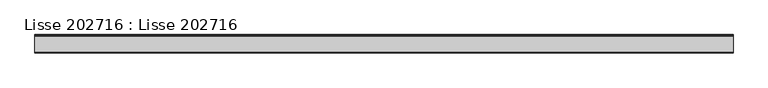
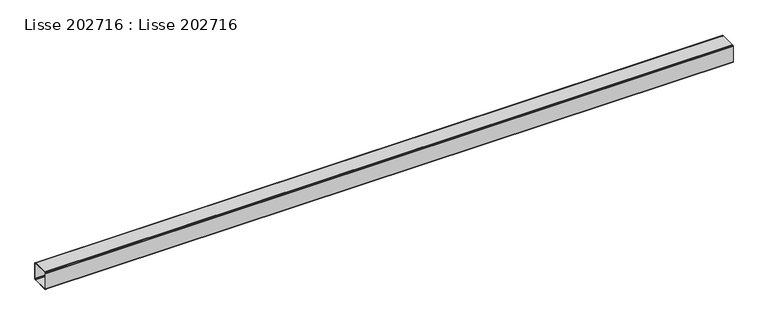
"""IFC4 building model written with IfcOpenShell, lengths in millimetres: beam geometry, Lisse 202716 : Lisse 202716."""

import ifcopenshell
import ifcopenshell.guid

model = None  # the IFC model being written
_history = None  # IfcOwnerHistory: only IFC2X3 demands one
_inside = {}  # id of a spatial element -> (the spatial element, [elements in it])
_under = {}  # id of a project, library or spatial element -> (it, [spatial elements below it])
_declared = {}  # id of a project -> (the project, [libraries it declares])
_typed = {}  # id of a type object -> (the type object, [elements of that type])
_made_of = {}  # id of a material, layer set ... -> (it, [elements and type objects made of it])


def new_model(schema):
    """Start an empty IFC model of exactly this schema.

    Asked for "IFC4X3", IfcOpenShell would pick the latest addendum, in which some entities
    have other attributes; the version numbers below select the first issue.
    IFC2X3 requires an IfcOwnerHistory on every rooted entity: one is made here for all.
    """
    global model, _history
    if schema == "IFC4X3":
        model = ifcopenshell.file(schema_version=(4, 3, 0, 0))
    else:
        model = ifcopenshell.file(schema=schema)
    _inside.clear()
    _under.clear()
    _declared.clear()
    _typed.clear()
    _made_of.clear()
    _history = None
    if model.schema == "IFC2X3":
        org = make("IfcOrganization", Name="unknown")
        user = make(
            "IfcPersonAndOrganization",
            ThePerson=make("IfcPerson", FamilyName="unknown"),
            TheOrganization=org,
        )
        app = make(
            "IfcApplication",
            ApplicationDeveloper=org,
            Version="unknown",
            ApplicationFullName="unknown",
            ApplicationIdentifier="unknown",
        )
        _history = make(
            "IfcOwnerHistory",
            OwningUser=user,
            OwningApplication=app,
            ChangeAction="ADDED",
            CreationDate=0,
        )
    return model


def make(cls, **values):
    """One entity of the class cls with the attributes given. An attribute that is None is left unset."""
    return model.create_entity(
        cls, **{name: value for name, value in values.items() if value is not None}
    )


def rooted(cls, **values):
    """An entity with a GlobalId (a new one), such as an element, a storey or a relation."""
    return make(cls, GlobalId=ifcopenshell.guid.new(), OwnerHistory=_history, **values)


def si_unit(unit_type, name, prefix=None):
    """IfcSIUnit, for example si_unit("LENGTHUNIT", "METRE", prefix="MILLI")."""
    return make("IfcSIUnit", UnitType=unit_type, Prefix=prefix, Name=name)


def assignment(units):
    """IfcUnitAssignment: the units of a project."""
    return None if units is None else make("IfcUnitAssignment", Units=units)


def point(xyz):
    """IfcCartesianPoint."""
    return None if xyz is None else make("IfcCartesianPoint", Coordinates=xyz)


def direction(xyz):
    """IfcDirection."""
    return None if xyz is None else make("IfcDirection", DirectionRatios=xyz)


def frame(location, z_axis=None, x_axis=None):
    """IfcAxis2Placement3D, a coordinate frame: its origin and axes. An axis left out is left unset."""
    return make(
        "IfcAxis2Placement3D",
        Location=point(location),
        Axis=direction(z_axis),
        RefDirection=direction(x_axis),
    )


def origin():
    """The frame at (0, 0, 0) with its axes left unset."""
    return frame((0.0, 0.0, 0.0))


def place(relative_to, where):
    """IfcLocalPlacement: puts the frame where relative to a parent placement (None: the world)."""
    return make(
        "IfcLocalPlacement", PlacementRelTo=relative_to, RelativePlacement=where
    )


def context(
    kind, dimensions, precision=None, world=None, true_north=None, identifier=None
):
    """IfcGeometricRepresentationContext, for example the 3D "Model" context."""
    return make(
        "IfcGeometricRepresentationContext",
        ContextIdentifier=identifier,
        ContextType=kind,
        CoordinateSpaceDimension=dimensions,
        Precision=precision,
        WorldCoordinateSystem=world,
        TrueNorth=true_north,
    )


def project(units=None, contexts=None):
    """IfcProject with its units and contexts."""
    return rooted(
        "IfcProject",
        Name="project",
        RepresentationContexts=contexts,
        UnitsInContext=assignment(units),
    )


def spatial(cls, under=None, at=None, **own):
    """A site, building, storey or space (cls), placed at a placement, below another one or the project."""
    s = rooted(cls, ObjectPlacement=at, **own)
    if under is not None:
        _under.setdefault(under.id(), (under, []))[1].append(s)
    return s


def polyline(points):
    """IfcPolyline through the points."""
    return make("IfcPolyline", Points=[point(p) for p in points])


def outline(outer, holes=None, kind="AREA"):
    """IfcArbitraryClosedProfileDef: a profile drawn as a closed curve; with holes, ...WithVoids."""
    if holes is None:
        return make("IfcArbitraryClosedProfileDef", ProfileType=kind, OuterCurve=outer)
    return make(
        "IfcArbitraryProfileDefWithVoids",
        ProfileType=kind,
        OuterCurve=outer,
        InnerCurves=holes,
    )


def extrude(swept, where, along, depth):
    """IfcExtrudedAreaSolid: the profile swept, set in the frame where, extruded along a direction by depth."""
    return make(
        "IfcExtrudedAreaSolid",
        SweptArea=swept,
        Position=where,
        ExtrudedDirection=direction(along),
        Depth=depth,
    )


def shape(context_of_items, identifier, shape_type, items):
    """IfcShapeRepresentation: the items that make up one representation, for example the "Body"."""
    return make(
        "IfcShapeRepresentation",
        ContextOfItems=context_of_items,
        RepresentationIdentifier=identifier,
        RepresentationType=shape_type,
        Items=items,
    )


def source(mapping_origin, context_of_items, identifier, shape_type, items):
    """IfcRepresentationMap: a shape defined once, which mapped items show again and again."""
    return make(
        "IfcRepresentationMap",
        MappingOrigin=mapping_origin,
        MappedRepresentation=shape(context_of_items, identifier, shape_type, items),
    )


def transform(
    local_origin,
    x_axis=None,
    y_axis=None,
    z_axis=None,
    scale=None,
    scale2=None,
    scale3=None,
    uniform=True,
):
    """IfcCartesianTransformationOperator3D, or its non-uniform kind. x_axis, y_axis, z_axis: its Axis1, 2, 3."""
    if uniform:
        return make(
            "IfcCartesianTransformationOperator3D",
            Axis1=direction(x_axis),
            Axis2=direction(y_axis),
            LocalOrigin=point(local_origin),
            Scale=scale,
            Axis3=direction(z_axis),
        )
    return make(
        "IfcCartesianTransformationOperator3DnonUniform",
        Axis1=direction(x_axis),
        Axis2=direction(y_axis),
        LocalOrigin=point(local_origin),
        Scale=scale,
        Axis3=direction(z_axis),
        Scale2=scale2,
        Scale3=scale3,
    )


def mapped(mapping_source, mapping_target):
    """IfcMappedItem: shows the shape of a source again, moved by a transform."""
    return make(
        "IfcMappedItem", MappingSource=mapping_source, MappingTarget=mapping_target
    )


def made_of(thing, what):
    """Note that an element or type object is made of a material, layer set ...; save() writes the relation."""
    if what is not None:
        _made_of.setdefault(what.id(), (what, []))[1].append(thing)
    return thing


def element(
    cls,
    number,
    at=None,
    inside=None,
    cuts=None,
    type_object=None,
    material=None,
    context=None,
    identifier="Body",
    shape_type=None,
    held_by="IfcProductDefinitionShape",
    body=None,
    shapes=None,
    **own,
):
    """One element of the class cls, such as IfcWall. Its Tag is "e" and its number.

    at: its placement. inside: the storey or other place that contains it. cuts: it is an
    opening in that element (IfcRelVoidsElement). A single representation is given by context,
    identifier, shape_type and body (its items); several are given by shapes. held_by: the class
    of the entity that holds the representations. save() writes the other relations.
    """
    e = rooted(cls, Tag="e%d" % number, ObjectPlacement=at, **own)
    if body is not None:
        shapes = [shape(context, identifier, shape_type, body)]
    if shapes is not None:
        e.Representation = make(held_by, Representations=shapes)
    if inside is not None:
        _inside.setdefault(inside.id(), (inside, []))[1].append(e)
    if cuts is not None:
        rooted(
            "IfcRelVoidsElement", RelatingBuildingElement=cuts, RelatedOpeningElement=e
        )
    if type_object is not None:
        _typed.setdefault(type_object.id(), (type_object, []))[1].append(e)
    return made_of(e, material)


def aggregate(whole, parts):
    """IfcRelAggregates: a whole, such as a stair, and the parts it consists of."""
    return rooted("IfcRelAggregates", RelatingObject=whole, RelatedObjects=parts)


def save(model, path):
    """Write the relations noted so far, then the file.

    IfcRelAggregates (storeys below a building ...), IfcRelContainedInSpatialStructure (elements
    in a storey), IfcRelDefinesByType, IfcRelAssociatesMaterial and IfcRelDeclares: one each for
    every whole, place, type object, material and project.
    """
    for whole, parts in _under.values():
        aggregate(whole, parts)
    for where, things in _inside.values():
        rooted(
            "IfcRelContainedInSpatialStructure",
            RelatedElements=things,
            RelatingStructure=where,
        )
    for kind, things in _typed.values():
        rooted("IfcRelDefinesByType", RelatedObjects=things, RelatingType=kind)
    for what, things in _made_of.values():
        rooted("IfcRelAssociatesMaterial", RelatedObjects=things, RelatingMaterial=what)
    for by, libraries in _declared.values():
        rooted("IfcRelDeclares", RelatingContext=by, RelatedDefinitions=libraries)
    model.write(path)


def lisse_202716_lisse_202716_2bcbaa4b(model_context):
    return source(origin(), model_context, "Body", "SweptSolid", [
        extrude(outline(polyline([(95.0, 3194.0), (95.0, 3106.0), (94.1961524, 3103.0), (92.0, 3100.8038476), (89.0, 3100.0), (1.0, 3100.0), (-2.0, 3100.8038476), (-4.1961524, 3103.0), (-5.0, 3106.0), (-5.0, 3194.0), (-4.1961524, 3197.0), (-2.0, 3199.1961524), (1.0, 3200.0), (89.0, 3200.0), (92.0, 3199.1961524), (94.1961524, 3197.0), (95.0, 3194.0)]), holes=[polyline([(91.0, 3108.0), (91.0, 3192.0), (90.4641016, 3194.0), (89.0, 3195.4641016), (87.0, 3196.0), (3.0, 3196.0), (1.0, 3195.4641016), (-0.4641016, 3194.0), (-1.0, 3192.0), (-1.0, 3108.0), (-0.4641016, 3106.0), (1.0, 3104.5358984), (3.0, 3104.0), (87.0, 3104.0), (89.0, 3104.5358984), (90.4641016, 3106.0), (91.0, 3108.0)])]), frame((3772.4999999, 0.0, 0.0), z_axis=(1.0, 0.0, 0.0), x_axis=(0.0, 1.0, 0.0)), (0.0, 0.0, 1.0), 3772.5),
    ])


if __name__ == "__main__":
    model = new_model("IFC4")
    model_context = context("Model", 3, world=origin())
    ifc_project = project(units=[si_unit("LENGTHUNIT", "METRE", prefix="MILLI")], contexts=[model_context])
    site = spatial("IfcSite", under=ifc_project)
    building = spatial("IfcBuilding", under=site)
    placement = place(None, origin())
    lisse_202716_lisse_202716_shape = lisse_202716_lisse_202716_2bcbaa4b(model_context)
    element("IfcBeam", 1, ObjectType="Lisse 202716 : Lisse 202716", at=placement, inside=building, context=model_context, shape_type="MappedRepresentation", body=[
        mapped(lisse_202716_lisse_202716_shape, transform((0.0, 0.0, 0.0), x_axis=(1.0, 0.0, 0.0), y_axis=(0.0, 1.0, 0.0), z_axis=(0.0, 0.0, 1.0))),
    ])
    save(model, "model.ifc")
